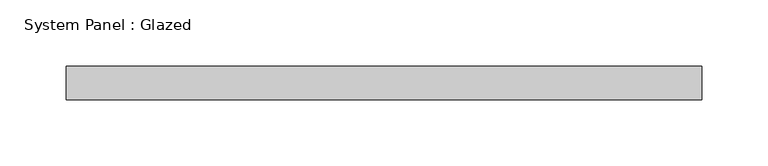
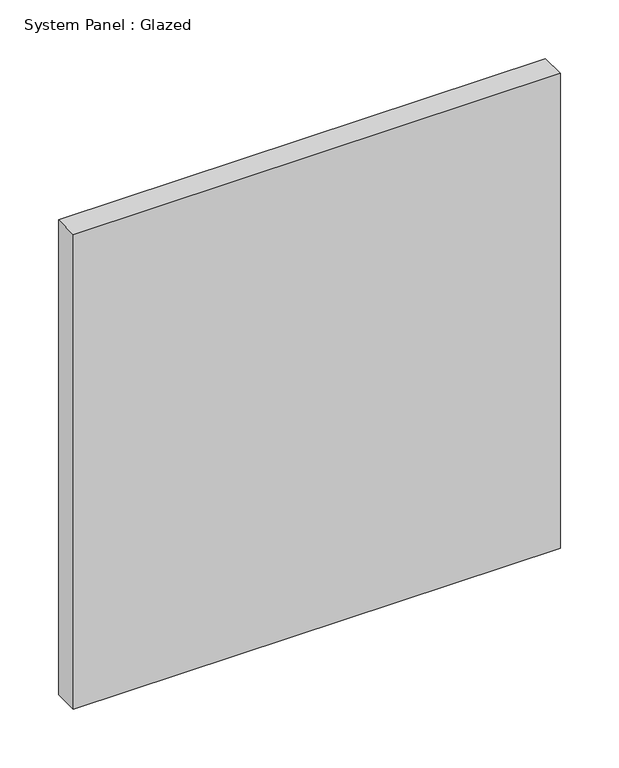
"""IFC4 building model written with IfcOpenShell, lengths in millimetres: plate geometry, System Panel : Glazed."""

from ifc_helpers import new_model, si_unit, origin, origin_with_axes, place, context, project, spatial, polyline, outline, extrude, source, transform, mapped, element, save


def system_panel_glazed_f5a07ad7(model_context):
    return source(origin(), model_context, "Body", "SweptSolid", [
        extrude(outline(polyline([(240.3420247, -12.7), (-240.3420247, -12.7), (-240.3420247, 12.7), (240.3420247, 12.7), (240.3420247, -12.7)])), origin_with_axes(), (0.0, 0.0, 1.0), 495.3),
    ])


if __name__ == "__main__":
    model = new_model("IFC4")
    model_context = context("Model", 3, world=origin())
    ifc_project = project(units=[si_unit("LENGTHUNIT", "METRE", prefix="MILLI")], contexts=[model_context])
    site = spatial("IfcSite", under=ifc_project)
    building = spatial("IfcBuilding", under=site)
    placement = place(None, origin())
    system_panel_glazed_shape = system_panel_glazed_f5a07ad7(model_context)
    element("IfcPlate", 1, ObjectType="System Panel : Glazed", at=placement, inside=building, context=model_context, shape_type="MappedRepresentation", body=[
        mapped(system_panel_glazed_shape, transform((0.0, 0.0, 0.0), x_axis=(1.0, 0.0, 0.0), y_axis=(0.0, 1.0, 0.0), z_axis=(0.0, 0.0, 1.0))),
    ])
    save(model, "model.ifc")
